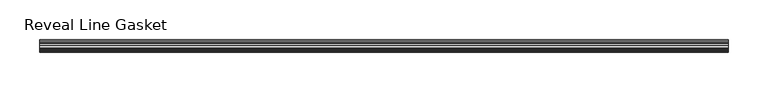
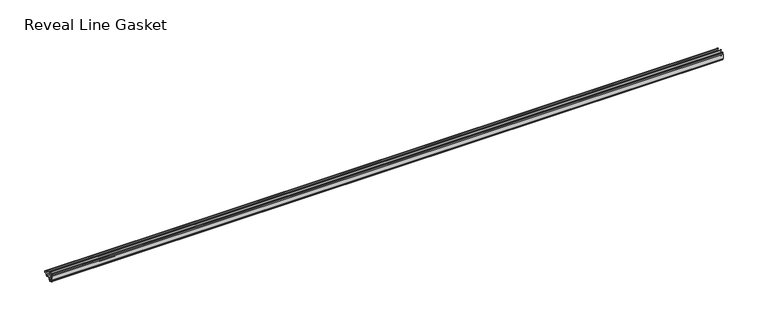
"""IFC4 building model written with IfcOpenShell, lengths in millimetres: proxy geometry, Accessories-Teknion-FHGR-AI_Healthcare-Reveal_Line_Gasket(Horizontal)-R2022 : Reveal Line Gasket."""

from ifc_helpers import new_model, si_unit, point, frame, frame_2d, origin, place, context, project, spatial, polyline, circle_curve, trimmed, segment, composite_curve, outline, extrude, source, transform, mapped, element, save


def reveal_line_gasket_e02d9327(model_context):
    return source(origin(), model_context, "Body", "SweptSolid", [
        extrude(outline(composite_curve([segment(polyline([(-7.6326998, 1603.2), (-7.4091917, 1604.1554927), (-6.8813059, 1605.0884684)]), True, "CONTINUOUS"), segment(trimmed(circle_curve(frame_2d((-6.5243141, 1604.8864793)), 0.4101739), [point((-6.8813059, 1605.0884684))], [point((-6.1246704, 1604.7941347))], False, "CARTESIAN"), True, "CONTINUOUS"), segment(polyline([(-6.1246704, 1604.7941347), (-6.3626997, 1603.0979086), (-6.3626997, 1601.0654527)]), True, "CONTINUOUS"), segment(trimmed(circle_curve(frame_2d((-5.6959605, 1601.4819258)), 0.786124), [point((-6.3626997, 1601.0654527))], [point((-5.0926996, 1600.977875))], True, "CARTESIAN"), True, "CONTINUOUS"), segment(polyline([(-5.0926996, 1600.977875), (-0.7492996, 1600.977875), (-3.7293824, 1606.1395295)]), True, "CONTINUOUS"), segment(trimmed(circle_curve(frame_2d((-3.3132479, 1606.2049761)), 0.4212495), [point((-3.7293824, 1606.1395295))], [point((-3.0485022, 1606.5326358))], False, "CARTESIAN"), True, "CONTINUOUS"), segment(polyline([(-3.0485022, 1606.5326358), (0.5742594, 1600.977875), (4.8262978, 1600.977875), (3.1660374, 1603.8535297)]), True, "CONTINUOUS"), segment(trimmed(circle_curve(frame_2d((3.5978728, 1603.9118855)), 0.4357605), [point((3.1660374, 1603.8535297))], [point((3.864328, 1604.2566881))], False, "CARTESIAN"), True, "CONTINUOUS"), segment(polyline([(3.864328, 1604.2566881), (6.1944059, 1600.977875), (7.6326998, 1600.977875), (7.6326998, 1599.422125), (6.1944059, 1599.422125), (3.864328, 1596.1433119)]), True, "CONTINUOUS"), segment(trimmed(circle_curve(frame_2d((3.5978728, 1596.4881145)), 0.4357605), [point((3.864328, 1596.1433119))], [point((3.1660374, 1596.5464703))], False, "CARTESIAN"), True, "CONTINUOUS"), segment(polyline([(3.1660374, 1596.5464703), (4.8262978, 1599.422125), (0.5742594, 1599.422125), (-3.0485022, 1593.8673642)]), True, "CONTINUOUS"), segment(trimmed(circle_curve(frame_2d((-3.3132479, 1594.1950239)), 0.4212495), [point((-3.0485022, 1593.8673642))], [point((-3.7293824, 1594.2604705))], False, "CARTESIAN"), True, "CONTINUOUS"), segment(polyline([(-3.7293824, 1594.2604705), (-0.7492996, 1599.422125), (-5.0926996, 1599.422125)]), True, "CONTINUOUS"), segment(trimmed(circle_curve(frame_2d((-5.6959605, 1598.9180742)), 0.786124), [point((-5.0926996, 1599.422125))], [point((-6.3626997, 1599.3345473))], True, "CARTESIAN"), True, "CONTINUOUS"), segment(polyline([(-6.3626997, 1599.3345473), (-6.3626997, 1597.3020914), (-6.1246704, 1595.6058653)]), True, "CONTINUOUS"), segment(trimmed(circle_curve(frame_2d((-6.5243141, 1595.5135207)), 0.4101739), [point((-6.1246704, 1595.6058653))], [point((-6.8813059, 1595.3115316))], False, "CARTESIAN"), True, "CONTINUOUS"), segment(polyline([(-6.8813059, 1595.3115316), (-7.4091917, 1596.2445073), (-7.6326998, 1597.2), (-7.6326998, 1603.2)]), True, "CONTINUOUS")], self_intersect=False)), frame((-431.199949, 0.0, 0.0), z_axis=(1.0, 0.0, 0.0), x_axis=(0.0, 1.0, 0.0)), (0.0, 0.0, 1.0), 862.3998981),
    ])


if __name__ == "__main__":
    model = new_model("IFC4")
    model_context = context("Model", 3, world=origin())
    ifc_project = project(units=[si_unit("LENGTHUNIT", "METRE", prefix="MILLI")], contexts=[model_context])
    site = spatial("IfcSite", under=ifc_project)
    building = spatial("IfcBuilding", under=site)
    placement = place(None, origin())
    reveal_line_gasket_shape = reveal_line_gasket_e02d9327(model_context)
    element("IfcBuildingElementProxy", 1, Name="Accessories-Teknion-FHGR-AI_Healthcare-Reveal_Line_Gasket(Horizontal)-R2022 : Reveal Line Gasket", ObjectType="Accessories-Teknion-FHGR-AI_Healthcare-Reveal_Line_Gasket(Horizontal)-R2022 : Reveal Line Gasket", at=placement, inside=building, context=model_context, shape_type="MappedRepresentation", body=[
        mapped(reveal_line_gasket_shape, transform((0.0, 0.0, 0.0), x_axis=(1.0, 0.0, 0.0), y_axis=(0.0, 1.0, 0.0), z_axis=(0.0, 0.0, 1.0))),
    ])
    save(model, "model.ifc")
